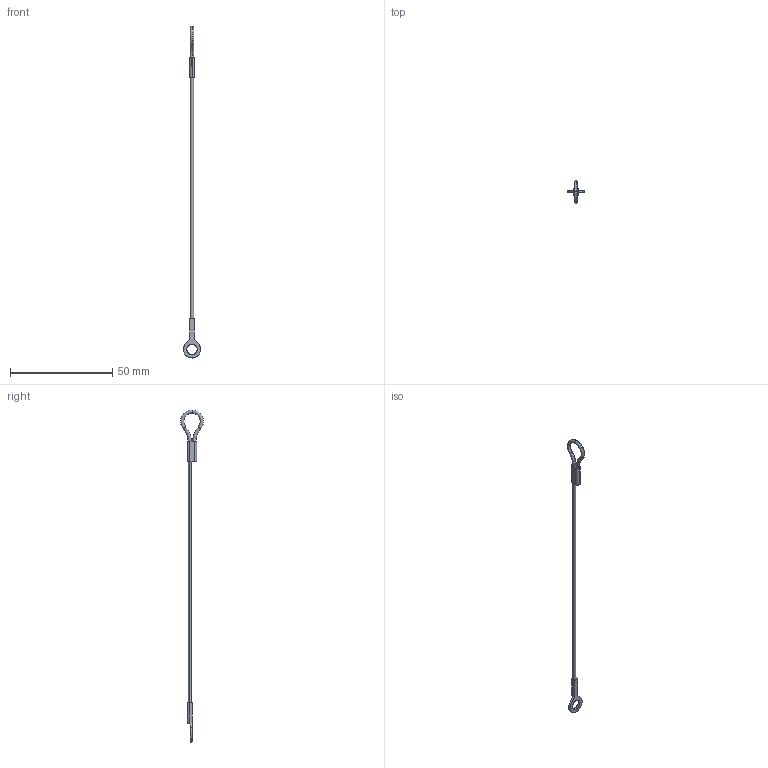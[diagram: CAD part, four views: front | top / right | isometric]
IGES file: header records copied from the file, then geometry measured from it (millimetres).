
Start section: SolidWorks IGES file using analytic representation for surfaces
Global section: file name: C:\Users\ianosborn\Desktop\LA1075_v2\LA1075_v2_20260320_IGES\LA1075.I04-152G1.igs; native system: SolidWorks 2019; preprocessor: SolidWorks 2019; author: IanOsborn; date: 260323.164034; units: millimetre
Bounding box: 8.38 x 11.16 x 162.19 mm (x, y, z)
Surface area: 1112.5 mm2 (no closed solid volume)
Topology: 0 solids, 0 shells, 30 faces, 404 edges, 404 vertices
Faces by surface type: bspline 20, revolution 10
